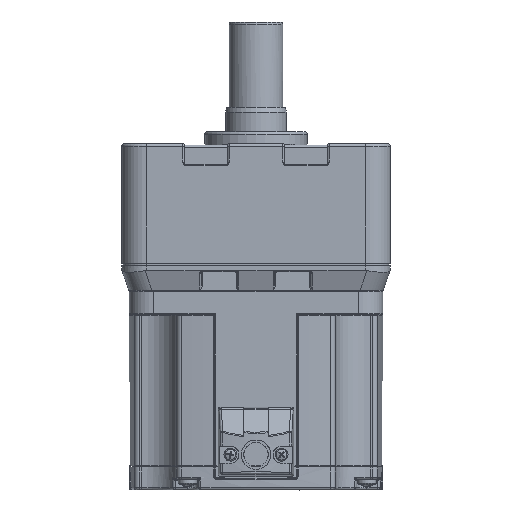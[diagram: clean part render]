
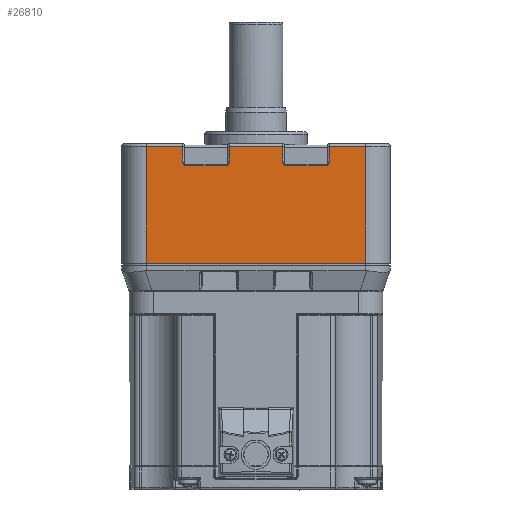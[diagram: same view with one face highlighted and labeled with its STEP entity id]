
A CAD part, front view. The second image highlights one B-rep face of the part: STEP entity #26810.
In plain terms, the highlighted planar face has unit normal (0, -1, 0).
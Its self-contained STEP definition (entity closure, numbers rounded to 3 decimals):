
#23781=CARTESIAN_POINT('',(-7.,-3.,46.772));
#23782=VERTEX_POINT('',#23781);
#23792=CARTESIAN_POINT('',(-97.,-3.,46.772));
#23793=VERTEX_POINT('',#23792);
#23794=CARTESIAN_POINT('',(-97.,-3.,46.772));
#23795=DIRECTION('',(1.0,0.0,0.0));
#23796=VECTOR('',#23795,90.);
#23797=LINE('',#23794,#23796);
#23798=EDGE_CURVE('',#23793,#23782,#23797,.T.);
#23897=CARTESIAN_POINT('',(-97.,-3.,94.772));
#23898=VERTEX_POINT('',#23897);
#23913=CARTESIAN_POINT('',(-97.,-3.,46.772));
#23914=DIRECTION('',(0.0,0.0,1.0));
#23915=VECTOR('',#23914,48.);
#23916=LINE('',#23913,#23915);
#23917=EDGE_CURVE('',#23793,#23898,#23916,.T.);
#25435=CARTESIAN_POINT('',(-7.,-3.,94.772));
#25436=VERTEX_POINT('',#25435);
#25446=CARTESIAN_POINT('',(-7.,-3.,94.772));
#25447=DIRECTION('',(0.0,0.0,-1.0));
#25448=VECTOR('',#25447,48.0);
#25449=LINE('',#25446,#25448);
#25450=EDGE_CURVE('',#25436,#23782,#25449,.T.);
#25992=CARTESIAN_POINT('',(-63.0,-3.,94.772));
#25993=VERTEX_POINT('',#25992);
#26001=CARTESIAN_POINT('',(-41.,-3.,94.772));
#26002=VERTEX_POINT('',#26001);
#26003=CARTESIAN_POINT('',(-63.0,-3.,94.772));
#26004=DIRECTION('',(1.0,0.0,0.0));
#26005=VECTOR('',#26004,22.);
#26006=LINE('',#26003,#26005);
#26007=EDGE_CURVE('',#25993,#26002,#26006,.T.);
#26690=CARTESIAN_POINT('',(-82.0,-3.,94.772));
#26691=VERTEX_POINT('',#26690);
#26701=CARTESIAN_POINT('',(-97.,-3.,94.772));
#26702=DIRECTION('',(1.0,0.0,0.0));
#26703=VECTOR('',#26702,15.);
#26704=LINE('',#26701,#26703);
#26705=EDGE_CURVE('',#23898,#26691,#26704,.T.);
#26710=CARTESIAN_POINT('',(-107.,-3.,46.772));
#26711=DIRECTION('',(0.0,-1.0,0.0));
#26712=DIRECTION('',(0.0,0.0,1.0));
#26713=AXIS2_PLACEMENT_3D('',#26710,#26711,#26712);
#26714=PLANE('',#26713);
#26715=CARTESIAN_POINT('',(-82.0,-3.,88.272));
#26716=VERTEX_POINT('',#26715);
#26717=CARTESIAN_POINT('',(-82.,-3.,94.772));
#26718=DIRECTION('',(0.0,0.0,-1.0));
#26719=VECTOR('',#26718,6.5);
#26720=LINE('',#26717,#26719);
#26721=EDGE_CURVE('',#26691,#26716,#26720,.T.);
#26722=ORIENTED_EDGE('',*,*,#26721,.F.);
#26723=ORIENTED_EDGE('',*,*,#26705,.F.);
#26724=ORIENTED_EDGE('',*,*,#23917,.F.);
#26725=ORIENTED_EDGE('',*,*,#23798,.T.);
#26726=ORIENTED_EDGE('',*,*,#25450,.F.);
#26727=CARTESIAN_POINT('',(-22.,-3.,94.772));
#26728=VERTEX_POINT('',#26727);
#26729=CARTESIAN_POINT('',(-22.,-3.,94.772));
#26730=DIRECTION('',(1.0,0.0,0.0));
#26731=VECTOR('',#26730,15.);
#26732=LINE('',#26729,#26731);
#26733=EDGE_CURVE('',#26728,#25436,#26732,.T.);
#26734=ORIENTED_EDGE('',*,*,#26733,.F.);
#26735=CARTESIAN_POINT('',(-22.,-3.,88.272));
#26736=VERTEX_POINT('',#26735);
#26737=CARTESIAN_POINT('',(-22.,-3.,88.272));
#26738=DIRECTION('',(0.0,0.0,1.0));
#26739=VECTOR('',#26738,6.5);
#26740=LINE('',#26737,#26739);
#26741=EDGE_CURVE('',#26736,#26728,#26740,.T.);
#26742=ORIENTED_EDGE('',*,*,#26741,.F.);
#26743=CARTESIAN_POINT('',(-23.5,-3.,86.772));
#26744=VERTEX_POINT('',#26743);
#26745=CARTESIAN_POINT('',(-23.5,-3.,88.272));
#26746=DIRECTION('',(0.,-1.0,0.));
#26747=DIRECTION('',(0.707,0.,-0.707));
#26748=AXIS2_PLACEMENT_3D('',#26745,#26746,#26747);
#26749=CIRCLE('',#26748,1.5);
#26750=EDGE_CURVE('',#26744,#26736,#26749,.T.);
#26751=ORIENTED_EDGE('',*,*,#26750,.F.);
#26752=CARTESIAN_POINT('',(-39.5,-3.,86.772));
#26753=VERTEX_POINT('',#26752);
#26754=CARTESIAN_POINT('',(-39.5,-3.,86.772));
#26755=DIRECTION('',(1.0,0.0,0.0));
#26756=VECTOR('',#26755,16.);
#26757=LINE('',#26754,#26756);
#26758=EDGE_CURVE('',#26753,#26744,#26757,.T.);
#26759=ORIENTED_EDGE('',*,*,#26758,.F.);
#26760=CARTESIAN_POINT('',(-41.,-3.,88.272));
#26761=VERTEX_POINT('',#26760);
#26762=CARTESIAN_POINT('',(-39.5,-3.,88.272));
#26763=DIRECTION('',(0.,-1.0,0.));
#26764=DIRECTION('',(-0.707,0.,-0.707));
#26765=AXIS2_PLACEMENT_3D('',#26762,#26763,#26764);
#26766=CIRCLE('',#26765,1.5);
#26767=EDGE_CURVE('',#26761,#26753,#26766,.T.);
#26768=ORIENTED_EDGE('',*,*,#26767,.F.);
#26769=CARTESIAN_POINT('',(-41.,-3.,94.772));
#26770=DIRECTION('',(0.0,0.0,-1.0));
#26771=VECTOR('',#26770,6.5);
#26772=LINE('',#26769,#26771);
#26773=EDGE_CURVE('',#26002,#26761,#26772,.T.);
#26774=ORIENTED_EDGE('',*,*,#26773,.F.);
#26775=ORIENTED_EDGE('',*,*,#26007,.F.);
#26776=CARTESIAN_POINT('',(-63.,-3.,88.272));
#26777=VERTEX_POINT('',#26776);
#26778=CARTESIAN_POINT('',(-63.,-3.,88.272));
#26779=DIRECTION('',(0.0,0.0,1.0));
#26780=VECTOR('',#26779,6.5);
#26781=LINE('',#26778,#26780);
#26782=EDGE_CURVE('',#26777,#25993,#26781,.T.);
#26783=ORIENTED_EDGE('',*,*,#26782,.F.);
#26784=CARTESIAN_POINT('',(-64.5,-3.,86.772));
#26785=VERTEX_POINT('',#26784);
#26786=CARTESIAN_POINT('',(-64.5,-3.,88.272));
#26787=DIRECTION('',(0.,-1.,0.));
#26788=DIRECTION('',(0.707,0.,-0.707));
#26789=AXIS2_PLACEMENT_3D('',#26786,#26787,#26788);
#26790=CIRCLE('',#26789,1.5);
#26791=EDGE_CURVE('',#26785,#26777,#26790,.T.);
#26792=ORIENTED_EDGE('',*,*,#26791,.F.);
#26793=CARTESIAN_POINT('',(-80.5,-3.,86.772));
#26794=VERTEX_POINT('',#26793);
#26795=CARTESIAN_POINT('',(-80.5,-3.,86.772));
#26796=DIRECTION('',(1.0,0.0,0.0));
#26797=VECTOR('',#26796,16.0);
#26798=LINE('',#26795,#26797);
#26799=EDGE_CURVE('',#26794,#26785,#26798,.T.);
#26800=ORIENTED_EDGE('',*,*,#26799,.F.);
#26801=CARTESIAN_POINT('',(-80.5,-3.,88.272));
#26802=DIRECTION('',(0.,-1.0,0.));
#26803=DIRECTION('',(-0.707,0.,-0.707));
#26804=AXIS2_PLACEMENT_3D('',#26801,#26802,#26803);
#26805=CIRCLE('',#26804,1.5);
#26806=EDGE_CURVE('',#26716,#26794,#26805,.T.);
#26807=ORIENTED_EDGE('',*,*,#26806,.F.);
#26808=EDGE_LOOP('',(#26722,#26723,#26724,#26725,#26726,#26734,#26742,#26751,#26759,#26768,#26774,#26775,#26783,#26792,#26800,#26807));
#26809=FACE_OUTER_BOUND('',#26808,.T.);
#26810=ADVANCED_FACE('',(#26809),#26714,.T.);
